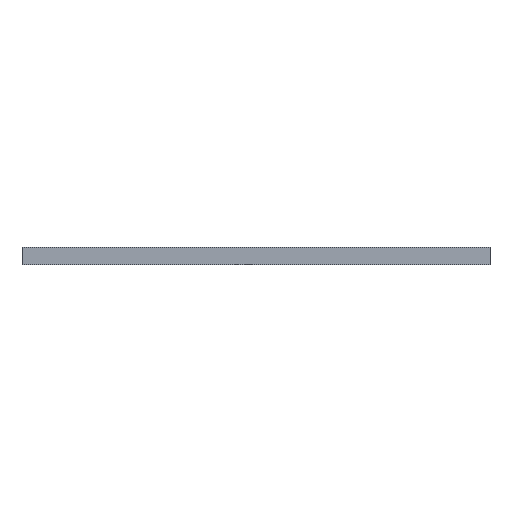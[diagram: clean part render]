
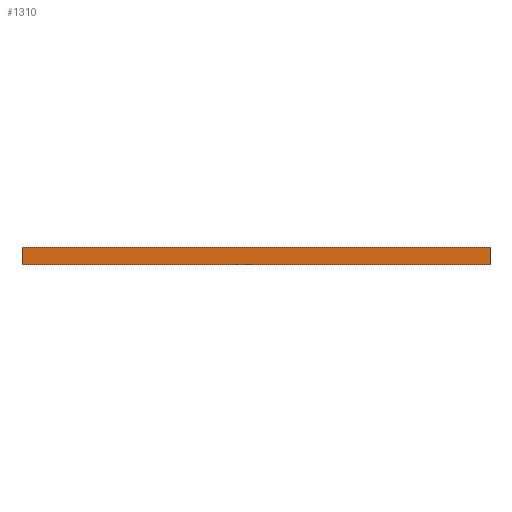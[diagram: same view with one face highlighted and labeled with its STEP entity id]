
A CAD part, front view. The second image highlights one B-rep face of the part: STEP entity #1310.
In plain terms, the highlighted planar face has unit normal (0, -1, 0).
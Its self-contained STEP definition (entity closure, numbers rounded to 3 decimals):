
#72 = PLANE('',#73);
#73 = AXIS2_PLACEMENT_3D('',#74,#75,#76);
#74 = CARTESIAN_POINT('',(-270.,180.,-10.));
#75 = DIRECTION('',(0.,0.,1.));
#76 = DIRECTION('',(1.,0.,0.));
#126 = PLANE('',#127);
#127 = AXIS2_PLACEMENT_3D('',#128,#129,#130);
#128 = CARTESIAN_POINT('',(-270.,180.,10.));
#129 = DIRECTION('',(0.,0.,1.));
#130 = DIRECTION('',(1.,0.,0.));
#516 = VERTEX_POINT('',#517);
#517 = CARTESIAN_POINT('',(-270.,-196.,10.));
#531 = PLANE('',#532);
#532 = AXIS2_PLACEMENT_3D('',#533,#534,#535);
#533 = CARTESIAN_POINT('',(-270.,-196.,-10.));
#534 = DIRECTION('',(1.,0.,0.));
#535 = DIRECTION('',(0.,0.,1.));
#543 = EDGE_CURVE('',#516,#544,#546,.T.);
#544 = VERTEX_POINT('',#545);
#545 = CARTESIAN_POINT('',(270.,-196.,10.));
#546 = SURFACE_CURVE('',#547,(#551,#558),.PCURVE_S1.);
#547 = LINE('',#548,#549);
#548 = CARTESIAN_POINT('',(-270.,-196.,10.));
#549 = VECTOR('',#550,1.);
#550 = DIRECTION('',(1.,0.,0.));
#551 = PCURVE('',#126,#552);
#552 = DEFINITIONAL_REPRESENTATION('',(#553),#557);
#553 = LINE('',#554,#555);
#554 = CARTESIAN_POINT('',(0.,-376.));
#555 = VECTOR('',#556,1.);
#556 = DIRECTION('',(1.,0.));
#557 = ( GEOMETRIC_REPRESENTATION_CONTEXT(2) 
PARAMETRIC_REPRESENTATION_CONTEXT() REPRESENTATION_CONTEXT('2D SPACE',''
  ) );
#558 = PCURVE('',#559,#564);
#559 = PLANE('',#560);
#560 = AXIS2_PLACEMENT_3D('',#561,#562,#563);
#561 = CARTESIAN_POINT('',(-270.,-196.,-10.));
#562 = DIRECTION('',(0.,1.,0.));
#563 = DIRECTION('',(0.,0.,1.));
#564 = DEFINITIONAL_REPRESENTATION('',(#565),#569);
#565 = LINE('',#566,#567);
#566 = CARTESIAN_POINT('',(20.,0.));
#567 = VECTOR('',#568,1.);
#568 = DIRECTION('',(0.,1.));
#569 = ( GEOMETRIC_REPRESENTATION_CONTEXT(2) 
PARAMETRIC_REPRESENTATION_CONTEXT() REPRESENTATION_CONTEXT('2D SPACE',''
  ) );
#587 = PLANE('',#588);
#588 = AXIS2_PLACEMENT_3D('',#589,#590,#591);
#589 = CARTESIAN_POINT('',(270.,-196.,-10.));
#590 = DIRECTION('',(1.,0.,0.));
#591 = DIRECTION('',(0.,0.,1.));
#995 = VERTEX_POINT('',#996);
#996 = CARTESIAN_POINT('',(-270.,-196.,-10.));
#1017 = EDGE_CURVE('',#1018,#995,#1020,.T.);
#1018 = VERTEX_POINT('',#1019);
#1019 = CARTESIAN_POINT('',(270.,-196.,-10.));
#1020 = SURFACE_CURVE('',#1021,(#1025,#1032),.PCURVE_S1.);
#1021 = LINE('',#1022,#1023);
#1022 = CARTESIAN_POINT('',(270.,-196.,-10.));
#1023 = VECTOR('',#1024,1.);
#1024 = DIRECTION('',(-1.,0.,0.));
#1025 = PCURVE('',#72,#1026);
#1026 = DEFINITIONAL_REPRESENTATION('',(#1027),#1031);
#1027 = LINE('',#1028,#1029);
#1028 = CARTESIAN_POINT('',(540.,-376.));
#1029 = VECTOR('',#1030,1.);
#1030 = DIRECTION('',(-1.,0.));
#1031 = ( GEOMETRIC_REPRESENTATION_CONTEXT(2) 
PARAMETRIC_REPRESENTATION_CONTEXT() REPRESENTATION_CONTEXT('2D SPACE',''
  ) );
#1032 = PCURVE('',#559,#1033);
#1033 = DEFINITIONAL_REPRESENTATION('',(#1034),#1038);
#1034 = LINE('',#1035,#1036);
#1035 = CARTESIAN_POINT('',(0.,540.));
#1036 = VECTOR('',#1037,1.);
#1037 = DIRECTION('',(0.,-1.));
#1038 = ( GEOMETRIC_REPRESENTATION_CONTEXT(2) 
PARAMETRIC_REPRESENTATION_CONTEXT() REPRESENTATION_CONTEXT('2D SPACE',''
  ) );
#1287 = EDGE_CURVE('',#1018,#544,#1288,.T.);
#1288 = SURFACE_CURVE('',#1289,(#1293,#1300),.PCURVE_S1.);
#1289 = LINE('',#1290,#1291);
#1290 = CARTESIAN_POINT('',(270.,-196.,-10.));
#1291 = VECTOR('',#1292,1.);
#1292 = DIRECTION('',(0.,0.,1.));
#1293 = PCURVE('',#587,#1294);
#1294 = DEFINITIONAL_REPRESENTATION('',(#1295),#1299);
#1295 = LINE('',#1296,#1297);
#1296 = CARTESIAN_POINT('',(0.,0.));
#1297 = VECTOR('',#1298,1.);
#1298 = DIRECTION('',(1.,0.));
#1299 = ( GEOMETRIC_REPRESENTATION_CONTEXT(2) 
PARAMETRIC_REPRESENTATION_CONTEXT() REPRESENTATION_CONTEXT('2D SPACE',''
  ) );
#1300 = PCURVE('',#559,#1301);
#1301 = DEFINITIONAL_REPRESENTATION('',(#1302),#1306);
#1302 = LINE('',#1303,#1304);
#1303 = CARTESIAN_POINT('',(0.,540.));
#1304 = VECTOR('',#1305,1.);
#1305 = DIRECTION('',(1.,0.));
#1306 = ( GEOMETRIC_REPRESENTATION_CONTEXT(2) 
PARAMETRIC_REPRESENTATION_CONTEXT() REPRESENTATION_CONTEXT('2D SPACE',''
  ) );
#1310 = ADVANCED_FACE('',(#1311),#559,.F.);
#1311 = FACE_BOUND('',#1312,.F.);
#1312 = EDGE_LOOP('',(#1313,#1314,#1335,#1336));
#1313 = ORIENTED_EDGE('',*,*,#1017,.T.);
#1314 = ORIENTED_EDGE('',*,*,#1315,.T.);
#1315 = EDGE_CURVE('',#995,#516,#1316,.T.);
#1316 = SURFACE_CURVE('',#1317,(#1321,#1328),.PCURVE_S1.);
#1317 = LINE('',#1318,#1319);
#1318 = CARTESIAN_POINT('',(-270.,-196.,-10.));
#1319 = VECTOR('',#1320,1.);
#1320 = DIRECTION('',(0.,0.,1.));
#1321 = PCURVE('',#559,#1322);
#1322 = DEFINITIONAL_REPRESENTATION('',(#1323),#1327);
#1323 = LINE('',#1324,#1325);
#1324 = CARTESIAN_POINT('',(0.,0.));
#1325 = VECTOR('',#1326,1.);
#1326 = DIRECTION('',(1.,0.));
#1327 = ( GEOMETRIC_REPRESENTATION_CONTEXT(2) 
PARAMETRIC_REPRESENTATION_CONTEXT() REPRESENTATION_CONTEXT('2D SPACE',''
  ) );
#1328 = PCURVE('',#531,#1329);
#1329 = DEFINITIONAL_REPRESENTATION('',(#1330),#1334);
#1330 = LINE('',#1331,#1332);
#1331 = CARTESIAN_POINT('',(0.,0.));
#1332 = VECTOR('',#1333,1.);
#1333 = DIRECTION('',(1.,0.));
#1334 = ( GEOMETRIC_REPRESENTATION_CONTEXT(2) 
PARAMETRIC_REPRESENTATION_CONTEXT() REPRESENTATION_CONTEXT('2D SPACE',''
  ) );
#1335 = ORIENTED_EDGE('',*,*,#543,.T.);
#1336 = ORIENTED_EDGE('',*,*,#1287,.F.);
